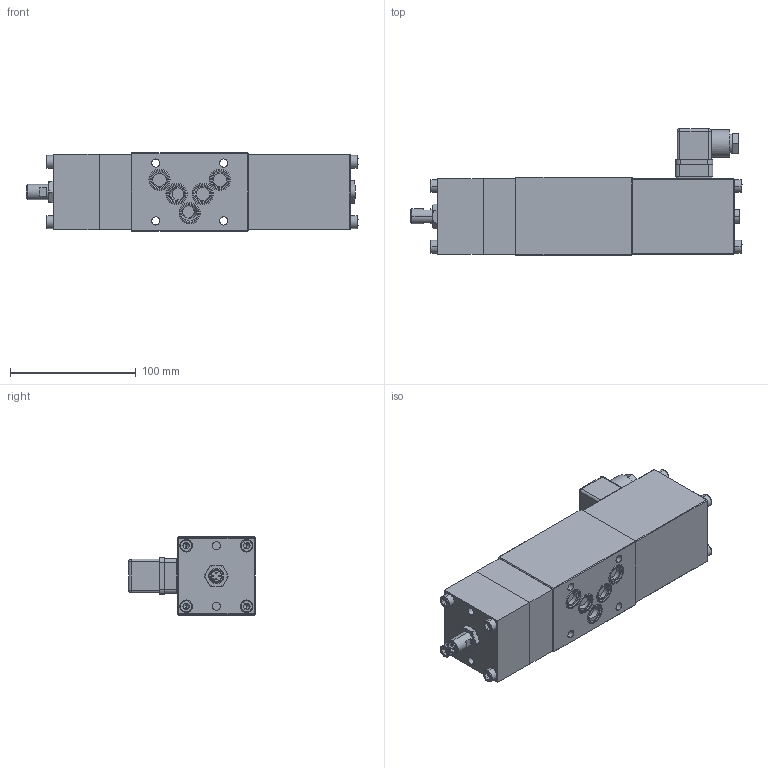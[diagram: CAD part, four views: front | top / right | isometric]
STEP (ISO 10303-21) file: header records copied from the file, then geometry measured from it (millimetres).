
FILE_DESCRIPTION (( 'STEP AP214' ), '1' );
FILE_NAME ('A.22100b-Z482, Z603, Z680.STEP', '2017-03-08T07:07:40', ( '' ), ( '' ), 'SwSTEP 2.0', 'SolidWorks 2016', '' );
FILE_SCHEMA (( 'AUTOMOTIVE_DESIGN' ));
Length unit declared in the file: millimetre
Products named in the file (1): A.22100b-Z482, Z603, Z680
Bounding box: 263.76 x 100.8 x 62 mm (x, y, z)
Volume: 890297.6 mm3; surface area: 114043.8 mm2
Topology: 12 solids, 22 shells, 887 faces, 2121 edges, 1313 vertices
Faces by surface type: plane 463, cylinder 258, cone 82, bspline 52, torus 32
Entity records: 36679 total; most frequent: CARTESIAN_POINT 6361, DIRECTION 4331, ORIENTED_EDGE 4186, EDGE_CURVE 2093, AXIS2_PLACEMENT_3D 1551, VERTEX_POINT 1313, LINE 1229, VECTOR 1229
